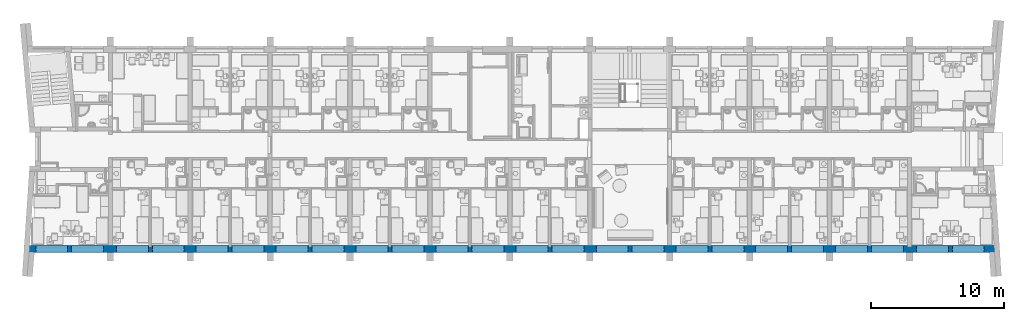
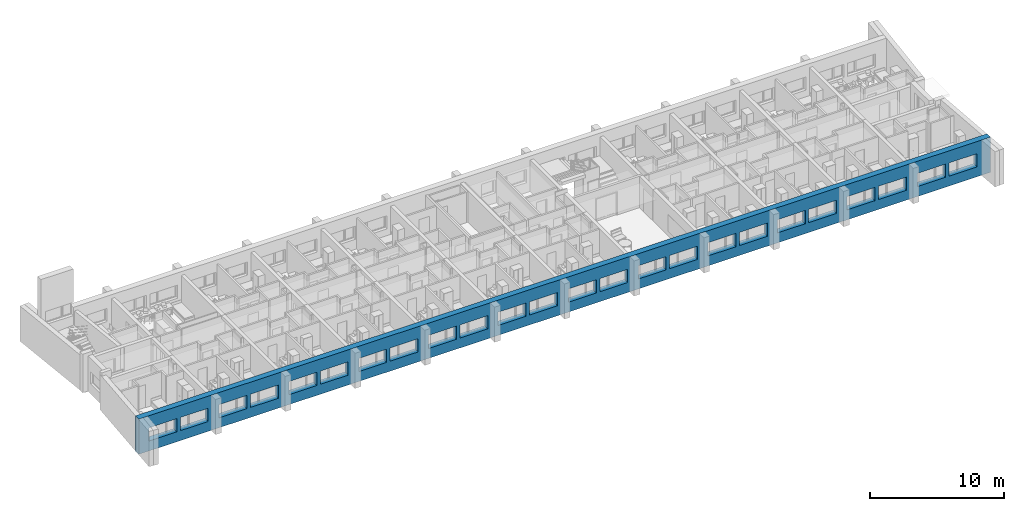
# One storey, part 10 of 165: 1 wall, 24 openings.
"""IFC2X3 building model written with IfcOpenShell, lengths in millimetres."""

from ifc_helpers import new_model, entity, si_unit, converted_unit, money_unit, direction, frame, origin_with_axes, place, context, subcontext, project, spatial, polyline, outline, extrude, material, layer, layer_set, layer_usage, type_object, element, save


model = new_model("IFC2X3")

# Units and contexts
model_context = context("Model", 3, precision=1e-05, world=origin_with_axes(), true_north=direction((0.0, 1.0)))
body_context = subcontext(model_context, "Body", "Model", "MODEL_VIEW")
ifc_project = project(units=[si_unit("LENGTHUNIT", "METRE", prefix="MILLI"), si_unit("AREAUNIT", "SQUARE_METRE"), si_unit("VOLUMEUNIT", "CUBIC_METRE"), converted_unit("PLANEANGLEUNIT", "DEGREE", entity("IfcPlaneAngleMeasure", 0.0174532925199), si_unit("PLANEANGLEUNIT", "RADIAN"), dimensions=[0, 0, 0, 0, 0, 0, 0]), si_unit("SOLIDANGLEUNIT", "STERADIAN"), money_unit("USD"), converted_unit("TIMEUNIT", "Year", entity("IfcTimeMeasure", 31556926.0), si_unit("TIMEUNIT", "SECOND"), dimensions=[0, 0, 0, 0, 0, 0, 0]), si_unit("MASSUNIT", "GRAM"), si_unit("THERMODYNAMICTEMPERATUREUNIT", "DEGREE_CELSIUS"), si_unit("LUMINOUSINTENSITYUNIT", "LUMEN")], contexts=[model_context])

# Site, building, storey
site_placement = place(None, origin_with_axes())
site = spatial("IfcSite", under=ifc_project, at=site_placement, Name="Site", CompositionType="ELEMENT")
building_placement = place(site_placement, origin_with_axes())
building = spatial("IfcBuilding", under=site, at=building_placement, Name="Building", CompositionType="ELEMENT")
storey_placement = place(building_placement, frame((0.0, 0.0, 6300.0), z_axis=(0.0, 0.0, 1.0), x_axis=(1.0, 0.0, 0.0)))
storey = spatial("IfcBuildingStorey", under=building, at=storey_placement, Name="4KORRUS", CompositionType="ELEMENT", Elevation=6300.0)

# Wall, openings
ifc_material = material(Name="Olemasolevad seinad tellis, uus viimistlus")
ifc_layer = layer(ifc_material, 500.0, ventilated="UNKNOWN")
ifc_layer_set = layer_set([ifc_layer], Name="Olemasolevad seinad tellis, uus viimistlus 500")
ifc_layer_usage = layer_usage(ifc_layer_set, "AXIS2", "POSITIVE", -400.0)
wall_type = type_object("IfcWallType", Name="Olemasolevad seinad tellis, uus viimistlus 500", PredefinedType="NOTDEFINED")
wall_placement = place(storey_placement, frame((-54605.6435345, -19739.2398994, 0.0), z_axis=(0.0, 0.0, 1.0), x_axis=(1.0, 0.0, 0.0)))
wall = element("IfcWallStandardCase", 1, at=wall_placement, inside=storey, type_object=wall_type, material=ifc_layer_usage, Name="VS1", ObjectType="VS1", context=body_context, shape_type="SweptSolid", body=[
    extrude(outline(polyline([(0.0, -400.0), (73230.6936624, -400.0), (73230.6936624, 100.0), (0.0, 100.0), (0.0, -400.0)])), origin_with_axes(), (0.0, 0.0, 1.0), 3200.0),
])
opening_1_placement = place(wall_placement, frame((2069.70351472, 0.0, 900.0), z_axis=(0.0, 0.0, 1.0), x_axis=(1.0, 0.0, 0.0)))
element("IfcOpeningElement", 2, at=opening_1_placement, cuts=wall, Name="A1", context=body_context, shape_type="SweptSolid", body=[
    extrude(outline(polyline([(1200.0, 1200.0), (-1200.0, 1200.0), (-1200.0, 0.0), (1200.0, 0.0), (1200.0, 1200.0)])), frame((0.0, -200.0, 0.0), z_axis=(0.0, 1.0, 0.0), x_axis=(-1.0, 0.0, 0.0)), (0.0, 0.0, 1.0), 800.0),
    extrude(outline(polyline([(1200.0, 0.0), (-1200.0, 0.0), (-1200.0, -1200.0), (1200.0, -1200.0), (1200.0, 0.0)])), frame((0.0, -200.0, 0.0), z_axis=(0.0, -1.0, 0.0), x_axis=(-1.0, 0.0, 0.0)), (0.0, 0.0, 1.0), 700.0),
])
opening_2_placement = place(wall_placement, frame((4769.70351472, 0.0, 900.0), z_axis=(0.0, 0.0, 1.0), x_axis=(1.0, 0.0, 0.0)))
element("IfcOpeningElement", 3, at=opening_2_placement, cuts=wall, Name="A2", context=body_context, shape_type="SweptSolid", body=[
    extrude(outline(polyline([(-1200.0, 1200.0), (-1200.0, 0.0), (1200.0, 0.0), (1200.0, 1200.0), (-1200.0, 1200.0)])), frame((0.0, -200.0, 0.0), z_axis=(0.0, 1.0, 0.0), x_axis=(-1.0, 0.0, 0.0)), (0.0, 0.0, 1.0), 800.0),
    extrude(outline(polyline([(-1200.0, 0.0), (-1200.0, -1200.0), (1200.0, -1200.0), (1200.0, 0.0), (-1200.0, 0.0)])), frame((0.0, -200.0, 0.0), z_axis=(0.0, -1.0, 0.0), x_axis=(-1.0, 0.0, 0.0)), (0.0, 0.0, 1.0), 700.0),
])
opening_3_placement = place(wall_placement, frame((8115.56153524, 0.0, 900.0), z_axis=(0.0, 0.0, 1.0), x_axis=(1.0, 0.0, 0.0)))
element("IfcOpeningElement", 4, at=opening_3_placement, cuts=wall, Name="A1", context=body_context, shape_type="SweptSolid", body=[
    extrude(outline(polyline([(1200.0, 1200.0), (-1200.0, 1200.0), (-1200.0, 0.0), (1200.0, 0.0), (1200.0, 1200.0)])), frame((0.0, -200.0, 0.0), z_axis=(0.0, 1.0, 0.0), x_axis=(-1.0, 0.0, 0.0)), (0.0, 0.0, 1.0), 800.0),
    extrude(outline(polyline([(1200.0, 0.0), (-1200.0, 0.0), (-1200.0, -1200.0), (1200.0, -1200.0), (1200.0, 0.0)])), frame((0.0, -200.0, 0.0), z_axis=(0.0, -1.0, 0.0), x_axis=(-1.0, 0.0, 0.0)), (0.0, 0.0, 1.0), 700.0),
])
opening_4_placement = place(wall_placement, frame((10815.5615352, 0.0, 900.0), z_axis=(0.0, 0.0, 1.0), x_axis=(1.0, 0.0, 0.0)))
element("IfcOpeningElement", 5, at=opening_4_placement, cuts=wall, Name="A2", context=body_context, shape_type="SweptSolid", body=[
    extrude(outline(polyline([(-1200.0, 1200.0), (-1200.0, 0.0), (1200.0, 0.0), (1200.0, 1200.0), (-1200.0, 1200.0)])), frame((0.0, -200.0, 0.0), z_axis=(0.0, 1.0, 0.0), x_axis=(-1.0, 0.0, 0.0)), (0.0, 0.0, 1.0), 800.0),
    extrude(outline(polyline([(-1200.0, 0.0), (-1200.0, -1200.0), (1200.0, -1200.0), (1200.0, 0.0), (-1200.0, 0.0)])), frame((0.0, -200.0, 0.0), z_axis=(0.0, -1.0, 0.0), x_axis=(-1.0, 0.0, 0.0)), (0.0, 0.0, 1.0), 700.0),
])
opening_5_placement = place(wall_placement, frame((14107.6936247, 0.0, 900.0), z_axis=(0.0, 0.0, 1.0), x_axis=(1.0, 0.0, 0.0)))
element("IfcOpeningElement", 6, at=opening_5_placement, cuts=wall, Name="A1", context=body_context, shape_type="SweptSolid", body=[
    extrude(outline(polyline([(1200.0, 1200.0), (-1200.0, 1200.0), (-1200.0, 0.0), (1200.0, 0.0), (1200.0, 1200.0)])), frame((0.0, -200.0, 0.0), z_axis=(0.0, 1.0, 0.0), x_axis=(-1.0, 0.0, 0.0)), (0.0, 0.0, 1.0), 800.0),
    extrude(outline(polyline([(1200.0, 0.0), (-1200.0, 0.0), (-1200.0, -1200.0), (1200.0, -1200.0), (1200.0, 0.0)])), frame((0.0, -200.0, 0.0), z_axis=(0.0, -1.0, 0.0), x_axis=(-1.0, 0.0, 0.0)), (0.0, 0.0, 1.0), 700.0),
])
opening_6_placement = place(wall_placement, frame((16807.6936247, 0.0, 900.0), z_axis=(0.0, 0.0, 1.0), x_axis=(1.0, 0.0, 0.0)))
element("IfcOpeningElement", 7, at=opening_6_placement, cuts=wall, Name="A2", context=body_context, shape_type="SweptSolid", body=[
    extrude(outline(polyline([(-1200.0, 1200.0), (-1200.0, 0.0), (1200.0, 0.0), (1200.0, 1200.0), (-1200.0, 1200.0)])), frame((0.0, -200.0, 0.0), z_axis=(0.0, 1.0, 0.0), x_axis=(-1.0, 0.0, 0.0)), (0.0, 0.0, 1.0), 800.0),
    extrude(outline(polyline([(-1200.0, 0.0), (-1200.0, -1200.0), (1200.0, -1200.0), (1200.0, 0.0), (-1200.0, 0.0)])), frame((0.0, -200.0, 0.0), z_axis=(0.0, -1.0, 0.0), x_axis=(-1.0, 0.0, 0.0)), (0.0, 0.0, 1.0), 700.0),
])
opening_7_placement = place(wall_placement, frame((20121.4429017, 0.0, 900.0), z_axis=(0.0, 0.0, 1.0), x_axis=(1.0, 0.0, 0.0)))
element("IfcOpeningElement", 8, at=opening_7_placement, cuts=wall, Name="A1", context=body_context, shape_type="SweptSolid", body=[
    extrude(outline(polyline([(1200.0, 1200.0), (-1200.0, 1200.0), (-1200.0, 0.0), (1200.0, 0.0), (1200.0, 1200.0)])), frame((0.0, -200.0, 0.0), z_axis=(0.0, 1.0, 0.0), x_axis=(-1.0, 0.0, 0.0)), (0.0, 0.0, 1.0), 800.0),
    extrude(outline(polyline([(1200.0, 0.0), (-1200.0, 0.0), (-1200.0, -1200.0), (1200.0, -1200.0), (1200.0, 0.0)])), frame((0.0, -200.0, 0.0), z_axis=(0.0, -1.0, 0.0), x_axis=(-1.0, 0.0, 0.0)), (0.0, 0.0, 1.0), 700.0),
])
opening_8_placement = place(wall_placement, frame((22821.4429017, 0.0, 900.0), z_axis=(0.0, 0.0, 1.0), x_axis=(1.0, 0.0, 0.0)))
element("IfcOpeningElement", 9, at=opening_8_placement, cuts=wall, Name="A2", context=body_context, shape_type="SweptSolid", body=[
    extrude(outline(polyline([(-1200.0, 1200.0), (-1200.0, 0.0), (1200.0, 0.0), (1200.0, 1200.0), (-1200.0, 1200.0)])), frame((0.0, -200.0, 0.0), z_axis=(0.0, 1.0, 0.0), x_axis=(-1.0, 0.0, 0.0)), (0.0, 0.0, 1.0), 800.0),
    extrude(outline(polyline([(-1200.0, 0.0), (-1200.0, -1200.0), (1200.0, -1200.0), (1200.0, 0.0), (-1200.0, 0.0)])), frame((0.0, -200.0, 0.0), z_axis=(0.0, -1.0, 0.0), x_axis=(-1.0, 0.0, 0.0)), (0.0, 0.0, 1.0), 700.0),
])
opening_9_placement = place(wall_placement, frame((26118.7584529, 0.0, 900.0), z_axis=(0.0, 0.0, 1.0), x_axis=(1.0, 0.0, 0.0)))
element("IfcOpeningElement", 10, at=opening_9_placement, cuts=wall, Name="A1", context=body_context, shape_type="SweptSolid", body=[
    extrude(outline(polyline([(1200.0, 1200.0), (-1200.0, 1200.0), (-1200.0, 0.0), (1200.0, 0.0), (1200.0, 1200.0)])), frame((0.0, -200.0, 0.0), z_axis=(0.0, 1.0, 0.0), x_axis=(-1.0, 0.0, 0.0)), (0.0, 0.0, 1.0), 800.0),
    extrude(outline(polyline([(1200.0, 0.0), (-1200.0, 0.0), (-1200.0, -1200.0), (1200.0, -1200.0), (1200.0, 0.0)])), frame((0.0, -200.0, 0.0), z_axis=(0.0, -1.0, 0.0), x_axis=(-1.0, 0.0, 0.0)), (0.0, 0.0, 1.0), 700.0),
])
opening_10_placement = place(wall_placement, frame((28818.7584529, 0.0, 900.0), z_axis=(0.0, 0.0, 1.0), x_axis=(1.0, 0.0, 0.0)))
element("IfcOpeningElement", 11, at=opening_10_placement, cuts=wall, Name="A2", context=body_context, shape_type="SweptSolid", body=[
    extrude(outline(polyline([(-1200.0, 1200.0), (-1200.0, 0.0), (1200.0, 0.0), (1200.0, 1200.0), (-1200.0, 1200.0)])), frame((0.0, -200.0, 0.0), z_axis=(0.0, 1.0, 0.0), x_axis=(-1.0, 0.0, 0.0)), (0.0, 0.0, 1.0), 800.0),
    extrude(outline(polyline([(-1200.0, 0.0), (-1200.0, -1200.0), (1200.0, -1200.0), (1200.0, 0.0), (-1200.0, 0.0)])), frame((0.0, -200.0, 0.0), z_axis=(0.0, -1.0, 0.0), x_axis=(-1.0, 0.0, 0.0)), (0.0, 0.0, 1.0), 700.0),
])
opening_11_placement = place(wall_placement, frame((32107.4199651, 0.0, 900.0), z_axis=(0.0, 0.0, 1.0), x_axis=(1.0, 0.0, 0.0)))
element("IfcOpeningElement", 12, at=opening_11_placement, cuts=wall, Name="A1", context=body_context, shape_type="SweptSolid", body=[
    extrude(outline(polyline([(1200.0, 1200.0), (-1200.0, 1200.0), (-1200.0, 0.0), (1200.0, 0.0), (1200.0, 1200.0)])), frame((0.0, -200.0, 0.0), z_axis=(0.0, 1.0, 0.0), x_axis=(-1.0, 0.0, 0.0)), (0.0, 0.0, 1.0), 800.0),
    extrude(outline(polyline([(1200.0, 0.0), (-1200.0, 0.0), (-1200.0, -1200.0), (1200.0, -1200.0), (1200.0, 0.0)])), frame((0.0, -200.0, 0.0), z_axis=(0.0, -1.0, 0.0), x_axis=(-1.0, 0.0, 0.0)), (0.0, 0.0, 1.0), 700.0),
])
opening_12_placement = place(wall_placement, frame((34807.4199651, 0.0, 900.0), z_axis=(0.0, 0.0, 1.0), x_axis=(1.0, 0.0, 0.0)))
element("IfcOpeningElement", 13, at=opening_12_placement, cuts=wall, Name="A2", context=body_context, shape_type="SweptSolid", body=[
    extrude(outline(polyline([(-1200.0, 1200.0), (-1200.0, 0.0), (1200.0, 0.0), (1200.0, 1200.0), (-1200.0, 1200.0)])), frame((0.0, -200.0, 0.0), z_axis=(0.0, 1.0, 0.0), x_axis=(-1.0, 0.0, 0.0)), (0.0, 0.0, 1.0), 800.0),
    extrude(outline(polyline([(-1200.0, 0.0), (-1200.0, -1200.0), (1200.0, -1200.0), (1200.0, 0.0), (-1200.0, 0.0)])), frame((0.0, -200.0, 0.0), z_axis=(0.0, -1.0, 0.0), x_axis=(-1.0, 0.0, 0.0)), (0.0, 0.0, 1.0), 700.0),
])
opening_13_placement = place(wall_placement, frame((38143.4602621, 0.0, 900.0), z_axis=(0.0, 0.0, 1.0), x_axis=(1.0, 0.0, 0.0)))
element("IfcOpeningElement", 14, at=opening_13_placement, cuts=wall, Name="A1", context=body_context, shape_type="SweptSolid", body=[
    extrude(outline(polyline([(1200.0, 1200.0), (-1200.0, 1200.0), (-1200.0, 0.0), (1200.0, 0.0), (1200.0, 1200.0)])), frame((0.0, -200.0, 0.0), z_axis=(0.0, 1.0, 0.0), x_axis=(-1.0, 0.0, 0.0)), (0.0, 0.0, 1.0), 800.0),
    extrude(outline(polyline([(1200.0, 0.0), (-1200.0, 0.0), (-1200.0, -1200.0), (1200.0, -1200.0), (1200.0, 0.0)])), frame((0.0, -200.0, 0.0), z_axis=(0.0, -1.0, 0.0), x_axis=(-1.0, 0.0, 0.0)), (0.0, 0.0, 1.0), 700.0),
])
opening_14_placement = place(wall_placement, frame((40843.4602621, 0.0, 900.0), z_axis=(0.0, 0.0, 1.0), x_axis=(1.0, 0.0, 0.0)))
element("IfcOpeningElement", 15, at=opening_14_placement, cuts=wall, Name="A2", context=body_context, shape_type="SweptSolid", body=[
    extrude(outline(polyline([(-1200.0, 1200.0), (-1200.0, 0.0), (1200.0, 0.0), (1200.0, 1200.0), (-1200.0, 1200.0)])), frame((0.0, -200.0, 0.0), z_axis=(0.0, 1.0, 0.0), x_axis=(-1.0, 0.0, 0.0)), (0.0, 0.0, 1.0), 800.0),
    extrude(outline(polyline([(-1200.0, 0.0), (-1200.0, -1200.0), (1200.0, -1200.0), (1200.0, 0.0), (-1200.0, 0.0)])), frame((0.0, -200.0, 0.0), z_axis=(0.0, -1.0, 0.0), x_axis=(-1.0, 0.0, 0.0)), (0.0, 0.0, 1.0), 700.0),
])
opening_15_placement = place(wall_placement, frame((44153.3468312, 0.0, 900.0), z_axis=(0.0, 0.0, 1.0), x_axis=(1.0, 0.0, 0.0)))
element("IfcOpeningElement", 16, at=opening_15_placement, cuts=wall, Name="A1", context=body_context, shape_type="SweptSolid", body=[
    extrude(outline(polyline([(1200.0, 1200.0), (-1200.0, 1200.0), (-1200.0, 0.0), (1200.0, 0.0), (1200.0, 1200.0)])), frame((0.0, -200.0, 0.0), z_axis=(0.0, 1.0, 0.0), x_axis=(-1.0, 0.0, 0.0)), (0.0, 0.0, 1.0), 800.0),
    extrude(outline(polyline([(1200.0, 0.0), (-1200.0, 0.0), (-1200.0, -1200.0), (1200.0, -1200.0), (1200.0, 0.0)])), frame((0.0, -200.0, 0.0), z_axis=(0.0, -1.0, 0.0), x_axis=(-1.0, 0.0, 0.0)), (0.0, 0.0, 1.0), 700.0),
])
opening_16_placement = place(wall_placement, frame((50153.3468312, 0.0, 900.0), z_axis=(0.0, 0.0, 1.0), x_axis=(1.0, 0.0, 0.0)))
element("IfcOpeningElement", 17, at=opening_16_placement, cuts=wall, Name="A1", context=body_context, shape_type="SweptSolid", body=[
    extrude(outline(polyline([(1200.0, 1200.0), (-1200.0, 1200.0), (-1200.0, 0.0), (1200.0, 0.0), (1200.0, 1200.0)])), frame((0.0, -200.0, 0.0), z_axis=(0.0, 1.0, 0.0), x_axis=(-1.0, 0.0, 0.0)), (0.0, 0.0, 1.0), 800.0),
    extrude(outline(polyline([(1200.0, 0.0), (-1200.0, 0.0), (-1200.0, -1200.0), (1200.0, -1200.0), (1200.0, 0.0)])), frame((0.0, -200.0, 0.0), z_axis=(0.0, -1.0, 0.0), x_axis=(-1.0, 0.0, 0.0)), (0.0, 0.0, 1.0), 700.0),
])
opening_17_placement = place(wall_placement, frame((52853.3468312, 0.0, 900.0), z_axis=(0.0, 0.0, 1.0), x_axis=(1.0, 0.0, 0.0)))
element("IfcOpeningElement", 18, at=opening_17_placement, cuts=wall, Name="A2", context=body_context, shape_type="SweptSolid", body=[
    extrude(outline(polyline([(-1200.0, 1200.0), (-1200.0, 0.0), (1200.0, 0.0), (1200.0, 1200.0), (-1200.0, 1200.0)])), frame((0.0, -200.0, 0.0), z_axis=(0.0, 1.0, 0.0), x_axis=(-1.0, 0.0, 0.0)), (0.0, 0.0, 1.0), 800.0),
    extrude(outline(polyline([(-1200.0, 0.0), (-1200.0, -1200.0), (1200.0, -1200.0), (1200.0, 0.0), (-1200.0, 0.0)])), frame((0.0, -200.0, 0.0), z_axis=(0.0, -1.0, 0.0), x_axis=(-1.0, 0.0, 0.0)), (0.0, 0.0, 1.0), 700.0),
])
opening_18_placement = place(wall_placement, frame((56111.2469198, 0.0, 900.0), z_axis=(0.0, 0.0, 1.0), x_axis=(1.0, 0.0, 0.0)))
element("IfcOpeningElement", 19, at=opening_18_placement, cuts=wall, Name="A1", context=body_context, shape_type="SweptSolid", body=[
    extrude(outline(polyline([(1200.0, 1200.0), (-1200.0, 1200.0), (-1200.0, 0.0), (1200.0, 0.0), (1200.0, 1200.0)])), frame((0.0, -200.0, 0.0), z_axis=(0.0, 1.0, 0.0), x_axis=(-1.0, 0.0, 0.0)), (0.0, 0.0, 1.0), 800.0),
    extrude(outline(polyline([(1200.0, 0.0), (-1200.0, 0.0), (-1200.0, -1200.0), (1200.0, -1200.0), (1200.0, 0.0)])), frame((0.0, -200.0, 0.0), z_axis=(0.0, -1.0, 0.0), x_axis=(-1.0, 0.0, 0.0)), (0.0, 0.0, 1.0), 700.0),
])
opening_19_placement = place(wall_placement, frame((58811.2469198, 0.0, 900.0), z_axis=(0.0, 0.0, 1.0), x_axis=(1.0, 0.0, 0.0)))
element("IfcOpeningElement", 20, at=opening_19_placement, cuts=wall, Name="A2", context=body_context, shape_type="SweptSolid", body=[
    extrude(outline(polyline([(-1200.0, 1200.0), (-1200.0, 0.0), (1200.0, 0.0), (1200.0, 1200.0), (-1200.0, 1200.0)])), frame((0.0, -200.0, 0.0), z_axis=(0.0, 1.0, 0.0), x_axis=(-1.0, 0.0, 0.0)), (0.0, 0.0, 1.0), 800.0),
    extrude(outline(polyline([(-1200.0, 0.0), (-1200.0, -1200.0), (1200.0, -1200.0), (1200.0, 0.0), (-1200.0, 0.0)])), frame((0.0, -200.0, 0.0), z_axis=(0.0, -1.0, 0.0), x_axis=(-1.0, 0.0, 0.0)), (0.0, 0.0, 1.0), 700.0),
])
opening_20_placement = place(wall_placement, frame((46853.3468312, 0.0, 900.0), z_axis=(0.0, 0.0, 1.0), x_axis=(1.0, 0.0, 0.0)))
element("IfcOpeningElement", 21, at=opening_20_placement, cuts=wall, Name="A2", context=body_context, shape_type="SweptSolid", body=[
    extrude(outline(polyline([(-1200.0, 1200.0), (-1200.0, 0.0), (1200.0, 0.0), (1200.0, 1200.0), (-1200.0, 1200.0)])), frame((0.0, -200.0, 0.0), z_axis=(0.0, 1.0, 0.0), x_axis=(-1.0, 0.0, 0.0)), (0.0, 0.0, 1.0), 800.0),
    extrude(outline(polyline([(-1200.0, 0.0), (-1200.0, -1200.0), (1200.0, -1200.0), (1200.0, 0.0), (-1200.0, 0.0)])), frame((0.0, -200.0, 0.0), z_axis=(0.0, -1.0, 0.0), x_axis=(-1.0, 0.0, 0.0)), (0.0, 0.0, 1.0), 700.0),
])
opening_21_placement = place(wall_placement, frame((64811.2469198, 0.0, 900.0), z_axis=(0.0, 0.0, 1.0), x_axis=(1.0, 0.0, 0.0)))
element("IfcOpeningElement", 22, at=opening_21_placement, cuts=wall, Name="A2", context=body_context, shape_type="SweptSolid", body=[
    extrude(outline(polyline([(-1200.0, 1200.0), (-1200.0, 0.0), (1200.0, 0.0), (1200.0, 1200.0), (-1200.0, 1200.0)])), frame((0.0, -200.0, 0.0), z_axis=(0.0, 1.0, 0.0), x_axis=(-1.0, 0.0, 0.0)), (0.0, 0.0, 1.0), 800.0),
    extrude(outline(polyline([(-1200.0, 0.0), (-1200.0, -1200.0), (1200.0, -1200.0), (1200.0, 0.0), (-1200.0, 0.0)])), frame((0.0, -200.0, 0.0), z_axis=(0.0, -1.0, 0.0), x_axis=(-1.0, 0.0, 0.0)), (0.0, 0.0, 1.0), 700.0),
])
opening_22_placement = place(wall_placement, frame((62111.2469198, 0.0, 900.0), z_axis=(0.0, 0.0, 1.0), x_axis=(1.0, 0.0, 0.0)))
element("IfcOpeningElement", 23, at=opening_22_placement, cuts=wall, Name="A1", context=body_context, shape_type="SweptSolid", body=[
    extrude(outline(polyline([(1200.0, 1200.0), (-1200.0, 1200.0), (-1200.0, 0.0), (1200.0, 0.0), (1200.0, 1200.0)])), frame((0.0, -200.0, 0.0), z_axis=(0.0, 1.0, 0.0), x_axis=(-1.0, 0.0, 0.0)), (0.0, 0.0, 1.0), 800.0),
    extrude(outline(polyline([(1200.0, 0.0), (-1200.0, 0.0), (-1200.0, -1200.0), (1200.0, -1200.0), (1200.0, 0.0)])), frame((0.0, -200.0, 0.0), z_axis=(0.0, -1.0, 0.0), x_axis=(-1.0, 0.0, 0.0)), (0.0, 0.0, 1.0), 700.0),
])
opening_23_placement = place(wall_placement, frame((70880.9519825, 0.0, 900.0), z_axis=(0.0, 0.0, 1.0), x_axis=(1.0, 0.0, 0.0)))
element("IfcOpeningElement", 24, at=opening_23_placement, cuts=wall, Name="A2", context=body_context, shape_type="SweptSolid", body=[
    extrude(outline(polyline([(-1200.0, 1200.0), (-1200.0, 0.0), (1200.0, 0.0), (1200.0, 1200.0), (-1200.0, 1200.0)])), frame((0.0, -200.0, 0.0), z_axis=(0.0, 1.0, 0.0), x_axis=(-1.0, 0.0, 0.0)), (0.0, 0.0, 1.0), 800.0),
    extrude(outline(polyline([(-1200.0, 0.0), (-1200.0, -1200.0), (1200.0, -1200.0), (1200.0, 0.0), (-1200.0, 0.0)])), frame((0.0, -200.0, 0.0), z_axis=(0.0, -1.0, 0.0), x_axis=(-1.0, 0.0, 0.0)), (0.0, 0.0, 1.0), 700.0),
])
opening_24_placement = place(wall_placement, frame((68180.9519825, 0.0, 900.0), z_axis=(0.0, 0.0, 1.0), x_axis=(1.0, 0.0, 0.0)))
element("IfcOpeningElement", 25, at=opening_24_placement, cuts=wall, Name="A1", context=body_context, shape_type="SweptSolid", body=[
    extrude(outline(polyline([(1200.0, 1200.0), (-1200.0, 1200.0), (-1200.0, 0.0), (1200.0, 0.0), (1200.0, 1200.0)])), frame((0.0, -200.0, 0.0), z_axis=(0.0, 1.0, 0.0), x_axis=(-1.0, 0.0, 0.0)), (0.0, 0.0, 1.0), 800.0),
    extrude(outline(polyline([(1200.0, 0.0), (-1200.0, 0.0), (-1200.0, -1200.0), (1200.0, -1200.0), (1200.0, 0.0)])), frame((0.0, -200.0, 0.0), z_axis=(0.0, -1.0, 0.0), x_axis=(-1.0, 0.0, 0.0)), (0.0, 0.0, 1.0), 700.0),
])

save(model, "model.ifc")
